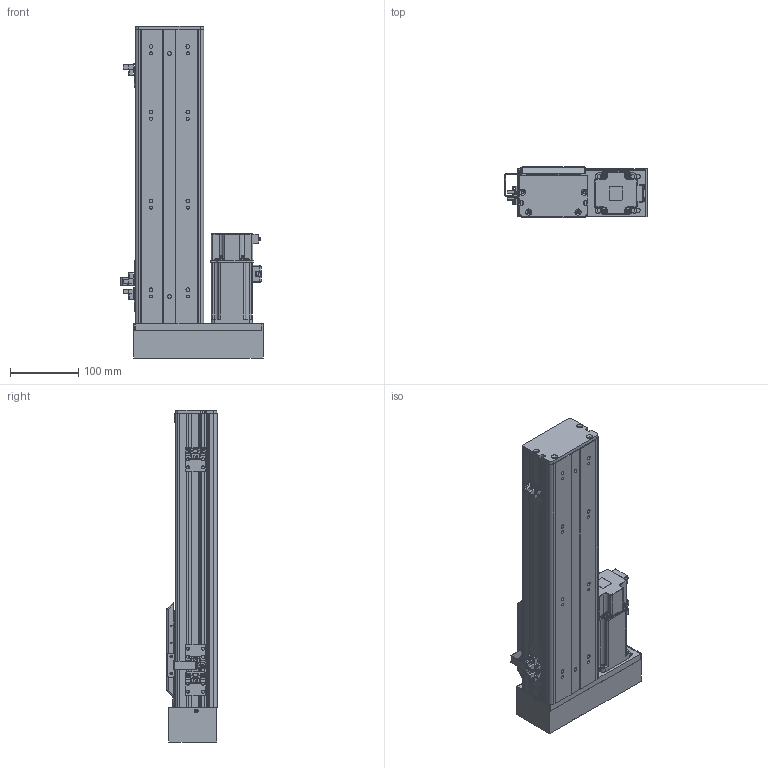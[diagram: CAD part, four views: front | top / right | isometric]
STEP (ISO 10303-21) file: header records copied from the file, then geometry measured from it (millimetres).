
FILE_DESCRIPTION (( 'STEP AP203' ), '1' );
FILE_NAME ('BOSW100-250-1610-1P-LM-M400W-O-S3（方程式2016）.step', '2020-10-10T06:52:45', ( '' ), ( '' ), 'SwSTEP 2.0', 'SolidWorks 2016', '' );
FILE_SCHEMA (( 'CONFIG_CONTROL_DESIGN' ));
Length unit declared in the file: millimetre
Products named in the file (14): 俋境嫖覜嘐隅啣; BOSW&TW-100-1P-賑雄釱欶; BOSW100-250-1610-1P-LM-M400W-O-S3（方程式2016）; BOSW&TW-100-詩湍揤沭(陔賦凳); BOSW&TW-100-俋离覜茼え; BOSW-100-1P-DM-宽轨-钢带-250客户图纸; boS-100-LM&RM-三菱M400W马达板-宽轨; BOSW-100-1P-DM-250諦誧芞; BOSW-100-綴裔啣; 新结构AIMSW-100-1P-宽&高轨共用-滑动座上组件; 放大器内置U型微型光电传感器PM-L65; BOSW-100-1P-DM-宽轨-侧板-250客户图纸; S400W(SMA-L040); AIMS(W)-100-LM&RM-肮祭謫欶
Assembly tree (19 placements, depth 2):
  BOSW100-250-1610-1P-LM-M400W-O-S3（方程式2016）
    BOSW-100-1P-DM-250諦誧芞
    BOSW-100-綴裔啣
    新结构AIMSW-100-1P-宽&高轨共用-滑动座上组件
    S400W(SMA-L040)
    BOSW&TW-100-詩湍揤沭(陔賦凳)  x2
    BOSW&TW-100-1P-賑雄釱欶
    BOSW&TW-100-俋离覜茼え
    俋境嫖覜嘐隅啣  x3
    放大器内置U型微型光电传感器PM-L65  x3
    BOSW-100-1P-DM-宽轨-侧板-250客户图纸  x2
    BOSW-100-1P-DM-宽轨-钢带-250客户图纸
    AIMS(W)-100-LM&RM-肮祭謫欶
    boS-100-LM&RM-三菱M400W马达板-宽轨
Bounding box: 207.9 x 75 x 486 mm (x, y, z)
Volume: 1257863 mm3; surface area: 623689 mm2
Topology: 19 solids, 20 shells, 2493 faces, 6567 edges, 4187 vertices
Faces by surface type: plane 1237, cylinder 770, bspline 271, cone 167, torus 36, sphere 12
Entity records: 68052 total; most frequent: CARTESIAN_POINT 20512, ORIENTED_EDGE 9674, DIRECTION 9345, EDGE_CURVE 4837, AXIS2_PLACEMENT_3D 3297, VERTEX_POINT 3089, LINE 2751, VECTOR 2751
